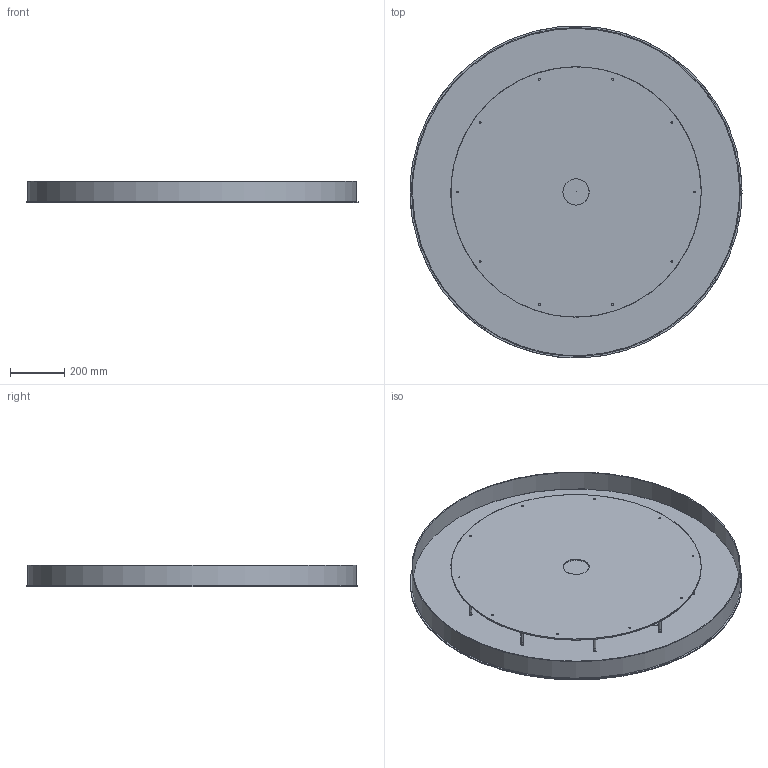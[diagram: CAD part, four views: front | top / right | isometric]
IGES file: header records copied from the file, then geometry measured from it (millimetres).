
Global section: file name: /Users/danielszollosi/Documents/SkLO/DEVELOPMENT/LIGHT 2024/MULTIPENDANT CANOPIES/Round Multipendant Canopies/SkLO_Round_Canopy_48_MCR48/3D/SkLO_Round_Canopy_48_MCR48_3D.igs; native system: Rhinoceros ( Sep 24 2023 ); preprocessor: Trout Lake IGES 012 Sep 24 2023; date: 241018.215129; units: millimetre
Bounding box: 1219.96 x 1219.78 x 78.3 mm (x, y, z)
Surface area: 4302747.7 mm2 (no closed solid volume)
Topology: 0 solids, 0 shells, 308 faces, 1719 edges, 1554 vertices
Faces by surface type: bspline 308
